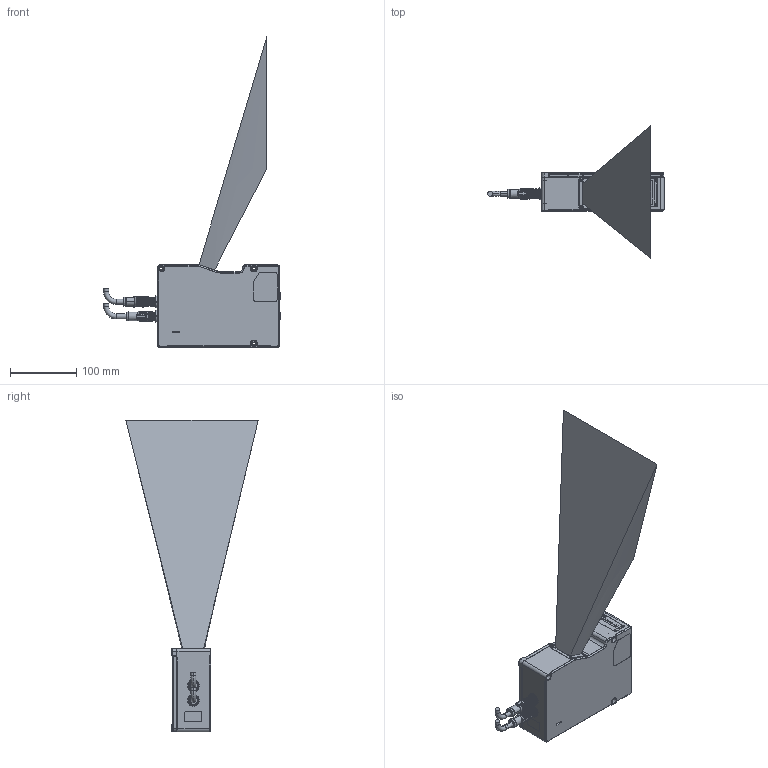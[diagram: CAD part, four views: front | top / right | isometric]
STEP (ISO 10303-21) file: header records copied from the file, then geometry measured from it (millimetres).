
FILE_DESCRIPTION((''),'2;1');
FILE_NAME('PRT0017','2026-05-23T11:16:04',('wangjiayi28'),(''),'CREO PARAMETRIC BY PTC INC, 2020044','CREO PARAMETRIC BY PTC INC, 2020044','');
FILE_SCHEMA(('AUTOMOTIVE_DESIGN { 1 0 10303 214 1 1 1 1 }'));
Products named in the file (1): PRT0017
Bounding box: 266.75 x 200 x 470.5 mm (x, y, z)
Volume: 173735.1 mm3; surface area: 266675.4 mm2
Topology: 39 solids, 75 shells, 3324 faces, 8974 edges, 5758 vertices
Faces by surface type: plane 1353, cylinder 1064, cone 482, bspline 213, torus 169, sphere 40, extrusion 3
Entity records: 164293 total; most frequent: CARTESIAN_POINT 82187, ORIENTED_EDGE 17298, DIRECTION 16734, EDGE_CURVE 8874, AXIS2_PLACEMENT_3D 6414, VERTEX_POINT 5758, VECTOR 3906, LINE 3903
